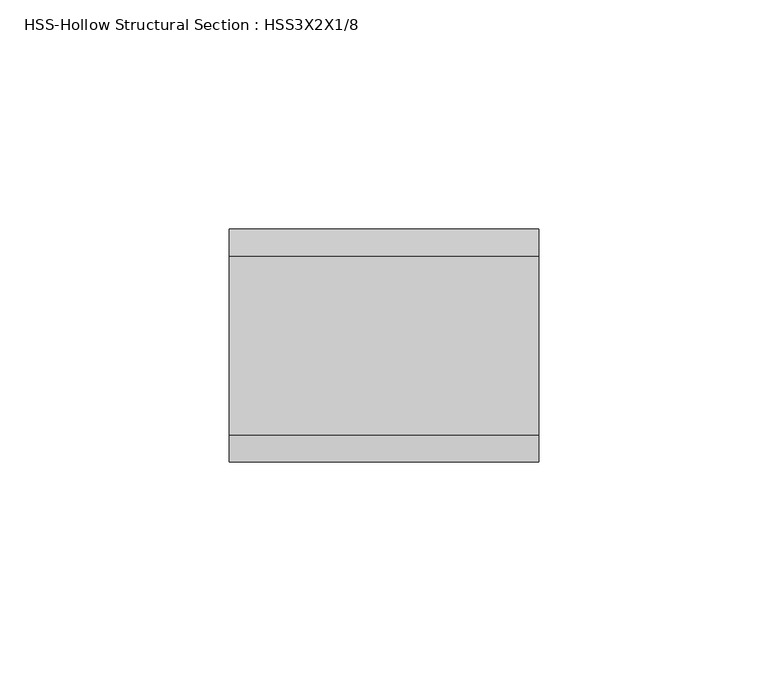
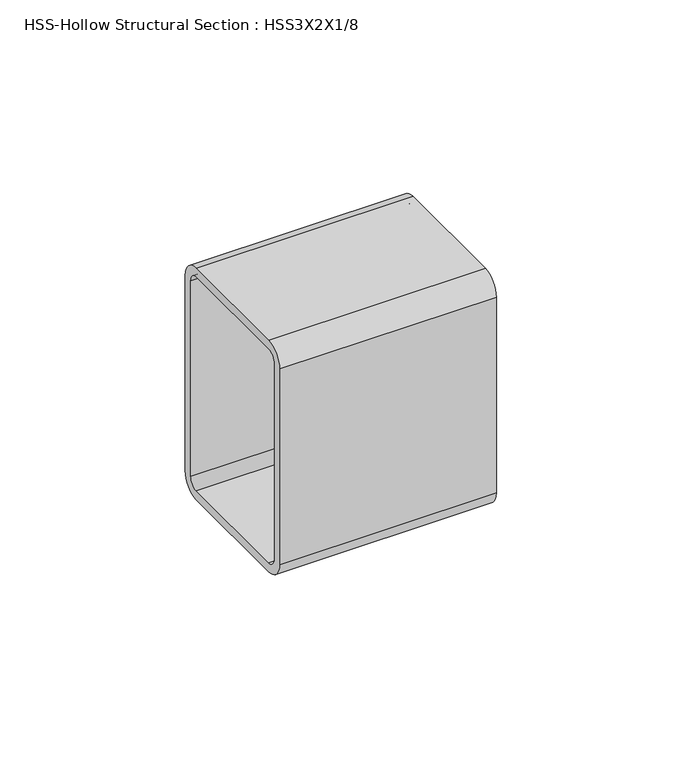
"""IFC4 building model written with IfcOpenShell, lengths in millimetres: beam geometry, HSS-Hollow Structural Section : HSS3X2X1/8."""

from ifc_helpers import new_model, si_unit, point, frame, frame_2d, origin, place, context, project, spatial, polyline, circle_curve, trimmed, segment, composite_curve, outline, extrude, source, transform, mapped, element, save


def hss_hollow_structural_section_hss3x2x1_8_24952963(model_context):
    return source(origin(), model_context, "Body", "SweptSolid", [
        extrude(outline(composite_curve([segment(polyline([(25.4, 32.2072), (25.4, -32.2072)]), True, "CONTINUOUS"), segment(trimmed(circle_curve(frame_2d((19.5072, -32.2072)), 5.8928), [point((25.4, -32.2072))], [point((19.5072, -38.1))], False, "CARTESIAN"), True, "CONTINUOUS"), segment(polyline([(19.5072, -38.1), (-19.5072, -38.1)]), True, "CONTINUOUS"), segment(trimmed(circle_curve(frame_2d((-19.5072, -32.2072)), 5.8928), [point((-19.5072, -38.1))], [point((-25.4, -32.2072))], False, "CARTESIAN"), True, "CONTINUOUS"), segment(polyline([(-25.4, -32.2072), (-25.4, 32.2072)]), True, "CONTINUOUS"), segment(trimmed(circle_curve(frame_2d((-19.5072, 32.2072)), 5.8928), [point((-25.4, 32.2072))], [point((-19.5072, 38.1))], False, "CARTESIAN"), True, "CONTINUOUS"), segment(polyline([(-19.5072, 38.1), (19.5072, 38.1)]), True, "CONTINUOUS"), segment(trimmed(circle_curve(frame_2d((19.5072, 32.2072)), 5.8928), [point((19.5072, 38.1))], [point((25.4, 32.2072))], False, "CARTESIAN"), True, "CONTINUOUS")], self_intersect=False), holes=[composite_curve([segment(trimmed(circle_curve(frame_2d((-19.5072, 32.2072)), 2.9464), [point((-19.5072, 35.1536))], [point((-22.4536, 32.2072))], True, "CARTESIAN"), True, "CONTINUOUS"), segment(polyline([(-22.4536, 32.2072), (-22.4536, -32.2072)]), True, "CONTINUOUS"), segment(trimmed(circle_curve(frame_2d((-19.5072, -32.2072)), 2.9464), [point((-22.4536, -32.2072))], [point((-19.5072, -35.1536))], True, "CARTESIAN"), True, "CONTINUOUS"), segment(polyline([(-19.5072, -35.1536), (19.5072, -35.1536)]), True, "CONTINUOUS"), segment(trimmed(circle_curve(frame_2d((19.5072, -32.2072)), 2.9464), [point((19.5072, -35.1536))], [point((22.4536, -32.2072))], True, "CARTESIAN"), True, "CONTINUOUS"), segment(polyline([(22.4536, -32.2072), (22.4536, 32.2072)]), True, "CONTINUOUS"), segment(trimmed(circle_curve(frame_2d((19.5072, 32.2072)), 2.9464), [point((22.4536, 32.2072))], [point((19.5072, 35.1536))], True, "CARTESIAN"), True, "CONTINUOUS"), segment(polyline([(19.5072, 35.1536), (-19.5072, 35.1536)]), True, "CONTINUOUS")], self_intersect=False)]), frame((19.2362906, 0.0, 0.0), z_axis=(1.0, 0.0, 0.0), x_axis=(0.0, 1.0, 0.0)), (0.0, 0.0, 1.0), 67.5160145),
    ])


if __name__ == "__main__":
    model = new_model("IFC4")
    model_context = context("Model", 3, world=origin())
    ifc_project = project(units=[si_unit("LENGTHUNIT", "METRE", prefix="MILLI")], contexts=[model_context])
    site = spatial("IfcSite", under=ifc_project)
    building = spatial("IfcBuilding", under=site)
    placement = place(None, origin())
    hss_hollow_structural_section_hss3x2x1_8_shape = hss_hollow_structural_section_hss3x2x1_8_24952963(model_context)
    element("IfcBeam", 1, ObjectType="HSS-Hollow Structural Section : HSS3X2X1/8", at=placement, inside=building, context=model_context, shape_type="MappedRepresentation", body=[
        mapped(hss_hollow_structural_section_hss3x2x1_8_shape, transform((0.0, 0.0, 0.0), x_axis=(1.0, 0.0, 0.0), y_axis=(0.0, 1.0, 0.0), z_axis=(0.0, 0.0, 1.0))),
    ])
    save(model, "model.ifc")
